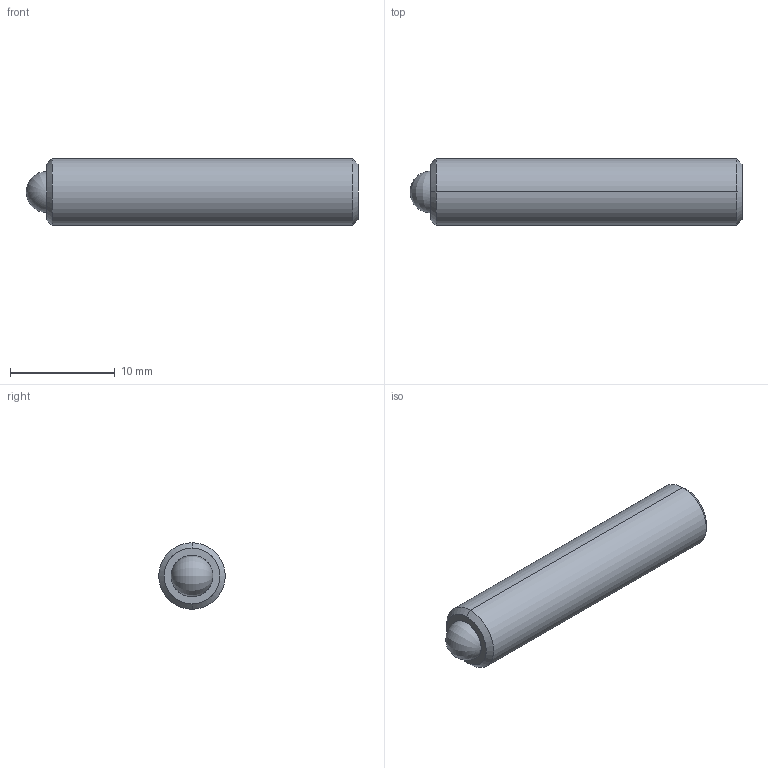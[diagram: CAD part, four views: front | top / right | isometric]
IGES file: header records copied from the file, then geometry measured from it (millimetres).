
Start section: SolidWorks IGES file using analytic representation for surfaces
Global section: file name: C:\Users\workpc\Desktop\KMA Solidworks\TS250-100 Series\TS250-100-1250.IGS; native system: SolidWorks 2013; preprocessor: SolidWorks 2013; author: workpc; date: 130211.181724; units: inch
Bounding box: 31.75 x 6.35 x 6.35 mm (x, y, z)
Surface area: 737.6 mm2 (no closed solid volume)
Topology: 0 solids, 0 shells, 20 faces, 204 edges, 200 vertices
Faces by surface type: revolution 10, bspline 10
